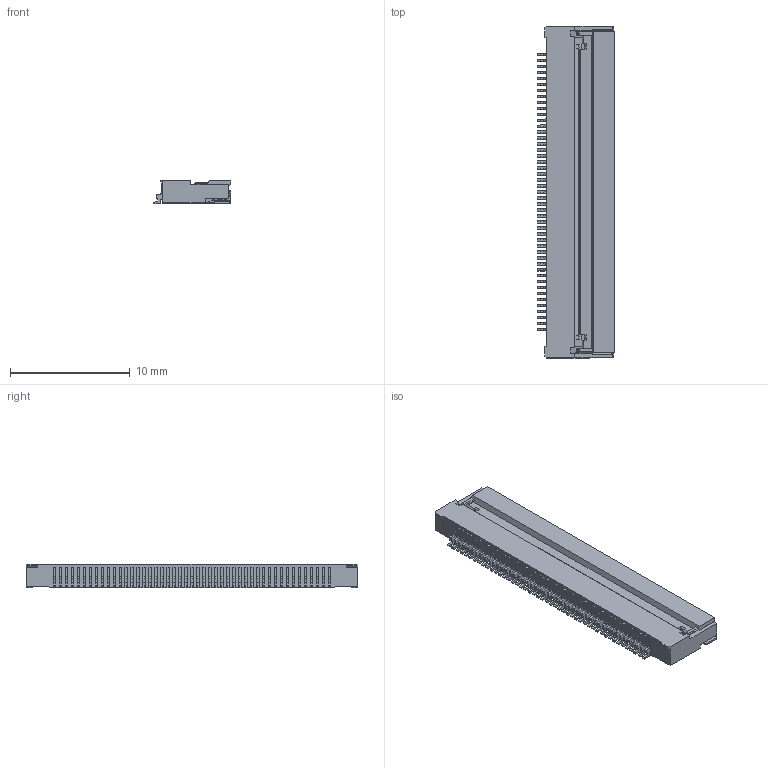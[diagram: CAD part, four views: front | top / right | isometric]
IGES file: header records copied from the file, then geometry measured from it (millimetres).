
Start section: SolidWorks IGES file using analytic representation for surfaces
Bounding box: 6.5 x 27.74 x 2 mm (x, y, z)
Surface area: 771.4 mm2 (no closed solid volume)
Topology: 0 solids, 0 shells, 1110 faces, 7411 edges, 7411 vertices
Faces by surface type: bspline 802, revolution 308
